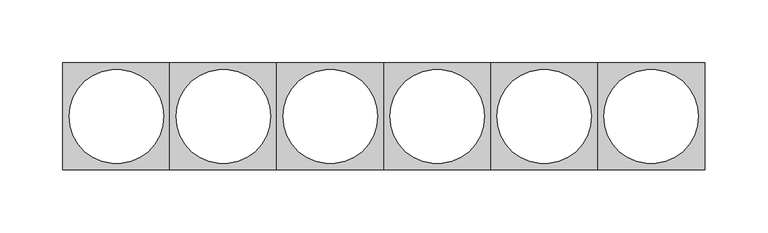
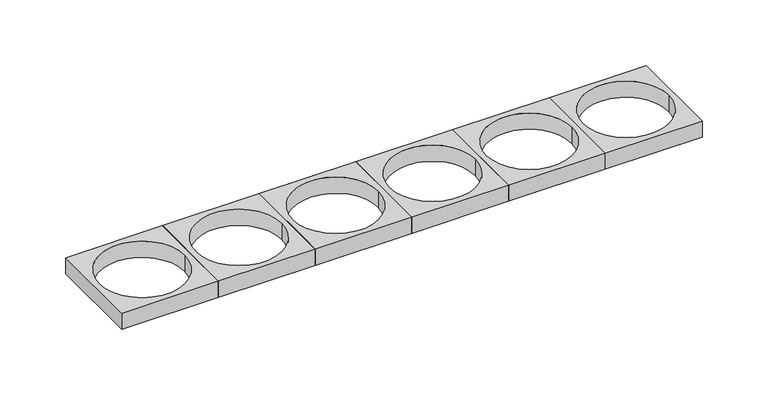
"""IFC4 building model written with IfcOpenShell, lengths in millimetres: duct fitting geometry, Mosaic Суппорт на 6 модуля : 85мм."""

from ifc_helpers import new_model, si_unit, point, frame_2d, origin, origin_with_axes, origin_2d, place, context, project, spatial, polyline, circle_curve, trimmed, segment, composite_curve, outline, extrude, source, transform, mapped, element, save


def duct_fitting_ee9016c7(model_context):
    return source(origin(), model_context, "Body", "SweptSolid", [
        extrude(outline(polyline([(467.5, 42.5), (467.5, -42.5), (382.5, -42.5), (382.5, 42.5), (467.5, 42.5)]), holes=[composite_curve([segment(trimmed(circle_curve(frame_2d((425.0, 0.0)), 37.5), [point((387.5, 0.0))], [point((462.5, 0.0))], True, "CARTESIAN"), True, "CONTINUOUS"), segment(trimmed(circle_curve(frame_2d((425.0, 0.0)), 37.5), [point((462.5, 0.0))], [point((387.5, 0.0))], True, "CARTESIAN"), True, "CONTINUOUS")], self_intersect=False)]), origin_with_axes(), (0.0, 0.0, 1.0), 15.0),
        extrude(outline(polyline([(382.5, 42.5), (382.5, -42.5), (297.5, -42.5), (297.5, 42.5), (382.5, 42.5)]), holes=[composite_curve([segment(trimmed(circle_curve(frame_2d((340.0, 0.0)), 37.5), [point((302.5, 0.0))], [point((377.5, 0.0))], True, "CARTESIAN"), True, "CONTINUOUS"), segment(trimmed(circle_curve(frame_2d((340.0, 0.0)), 37.5), [point((377.5, 0.0))], [point((302.5, 0.0))], True, "CARTESIAN"), True, "CONTINUOUS")], self_intersect=False)]), origin_with_axes(), (0.0, 0.0, 1.0), 15.0),
        extrude(outline(polyline([(297.5, 42.5), (297.5, -42.5), (212.5, -42.5), (212.5, 42.5), (297.5, 42.5)]), holes=[composite_curve([segment(trimmed(circle_curve(frame_2d((255.0, 0.0)), 37.5), [point((217.5, 0.0))], [point((292.5, 0.0))], True, "CARTESIAN"), True, "CONTINUOUS"), segment(trimmed(circle_curve(frame_2d((255.0, 0.0)), 37.5), [point((292.5, 0.0))], [point((217.5, 0.0))], True, "CARTESIAN"), True, "CONTINUOUS")], self_intersect=False)]), origin_with_axes(), (0.0, 0.0, 1.0), 15.0),
        extrude(outline(polyline([(212.5, 42.5), (212.5, -42.5), (127.5, -42.5), (127.5, 42.5), (212.5, 42.5)]), holes=[composite_curve([segment(trimmed(circle_curve(frame_2d((170.0, 0.0)), 37.5), [point((132.5, 0.0))], [point((207.5, 0.0))], True, "CARTESIAN"), True, "CONTINUOUS"), segment(trimmed(circle_curve(frame_2d((170.0, 0.0)), 37.5), [point((207.5, 0.0))], [point((132.5, 0.0))], True, "CARTESIAN"), True, "CONTINUOUS")], self_intersect=False)]), origin_with_axes(), (0.0, 0.0, 1.0), 15.0),
        extrude(outline(polyline([(127.5, 42.5), (127.5, -42.5), (42.5, -42.5), (42.5, 42.5), (127.5, 42.5)]), holes=[composite_curve([segment(trimmed(circle_curve(frame_2d((85.0, 0.0)), 37.5), [point((47.5, 0.0))], [point((122.5, 0.0))], True, "CARTESIAN"), True, "CONTINUOUS"), segment(trimmed(circle_curve(frame_2d((85.0, 0.0)), 37.5), [point((122.5, 0.0))], [point((47.5, 0.0))], True, "CARTESIAN"), True, "CONTINUOUS")], self_intersect=False)]), origin_with_axes(), (0.0, 0.0, 1.0), 15.0),
        extrude(outline(polyline([(42.5, 42.5), (42.5, -42.5), (-42.5, -42.5), (-42.5, 42.5), (42.5, 42.5)]), holes=[composite_curve([segment(trimmed(circle_curve(origin_2d(), 37.5), [point((-37.5, 0.0))], [point((37.5, 0.0))], True, "CARTESIAN"), True, "CONTINUOUS"), segment(trimmed(circle_curve(origin_2d(), 37.5), [point((37.5, 0.0))], [point((-37.5, 0.0))], True, "CARTESIAN"), True, "CONTINUOUS")], self_intersect=False)]), origin_with_axes(), (0.0, 0.0, 1.0), 15.0),
    ])


if __name__ == "__main__":
    model = new_model("IFC4")
    model_context = context("Model", 3, world=origin())
    ifc_project = project(units=[si_unit("LENGTHUNIT", "METRE", prefix="MILLI")], contexts=[model_context])
    site = spatial("IfcSite", under=ifc_project)
    building = spatial("IfcBuilding", under=site)
    placement = place(None, origin())
    duct_fitting_shape = duct_fitting_ee9016c7(model_context)
    element("IfcDuctFitting", 1, ObjectType="Mosaic Суппорт на 6 модуля : 85мм", at=placement, inside=building, context=model_context, shape_type="MappedRepresentation", body=[
        mapped(duct_fitting_shape, transform((0.0, 0.0, 0.0), x_axis=(1.0, 0.0, 0.0), y_axis=(0.0, 1.0, 0.0), z_axis=(0.0, 0.0, 1.0))),
    ])
    save(model, "model.ifc")
